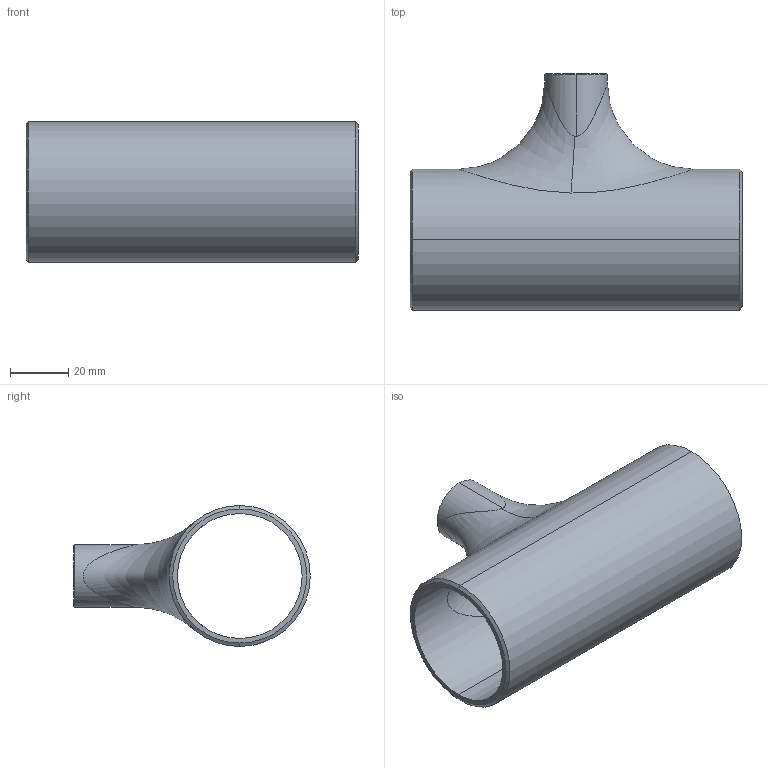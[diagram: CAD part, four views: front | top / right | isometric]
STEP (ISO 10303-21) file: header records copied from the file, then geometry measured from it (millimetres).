
FILE_DESCRIPTION (( 'STEP AP214' ), '1' );
FILE_NAME ('Different-tee_Sch10S-40Ax15A.STEP', '2022-06-28T00:10:22', ( 'ASIS User' ), ( 'ASIS User' ), 'SwSTEP 2.0', 'SolidWorks 2022', '' );
FILE_SCHEMA (( 'AUTOMOTIVE_DESIGN' ));
Length unit declared in the file: millimetre
Products named in the file (1): Different-tee_Sch10S-40Ax15A
Bounding box: 114.4 x 81.5 x 48.6 mm (x, y, z)
Volume: 49707.4 mm3; surface area: 37610.9 mm2
Topology: 1 solids, 1 shells, 21 faces, 48 edges, 30 vertices
Faces by surface type: cylinder 8, cone 6, bspline 4, plane 3
Entity records: 2062 total; most frequent: CARTESIAN_POINT 1564, ORIENTED_EDGE 96, DIRECTION 94, EDGE_CURVE 48, AXIS2_PLACEMENT_3D 40, VERTEX_POINT 30, EDGE_LOOP 26, CIRCLE 22
